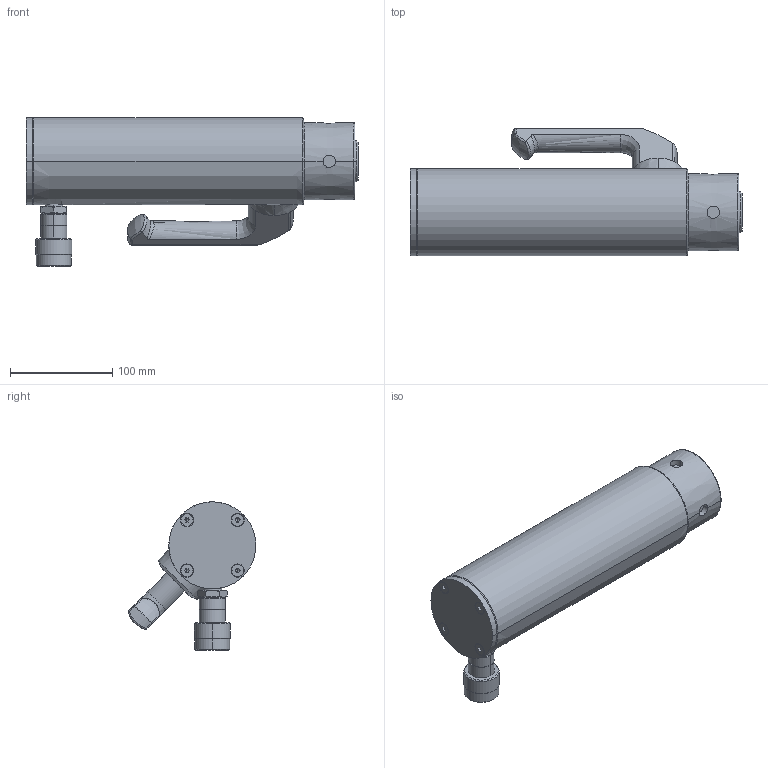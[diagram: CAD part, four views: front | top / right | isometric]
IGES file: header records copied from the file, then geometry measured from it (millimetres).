
Start section:  PTC IGES file: RACL-206.igs
Global section: file name: RACL-206.igs; native system: Creo Parametric by PTC Inc.; preprocessor: 2015290; author: mike.ward; organization: Unknown; date: 20171006.095721; units: inch
Bounding box: 324.2 x 124.73 x 144.94 mm (x, y, z)
Volume: 1764530.5 mm3; surface area: 234514.1 mm2
Topology: 2 solids, 6 shells, 446 faces, 966 edges, 563 vertices
Faces by surface type: revolution 318, bspline 128
